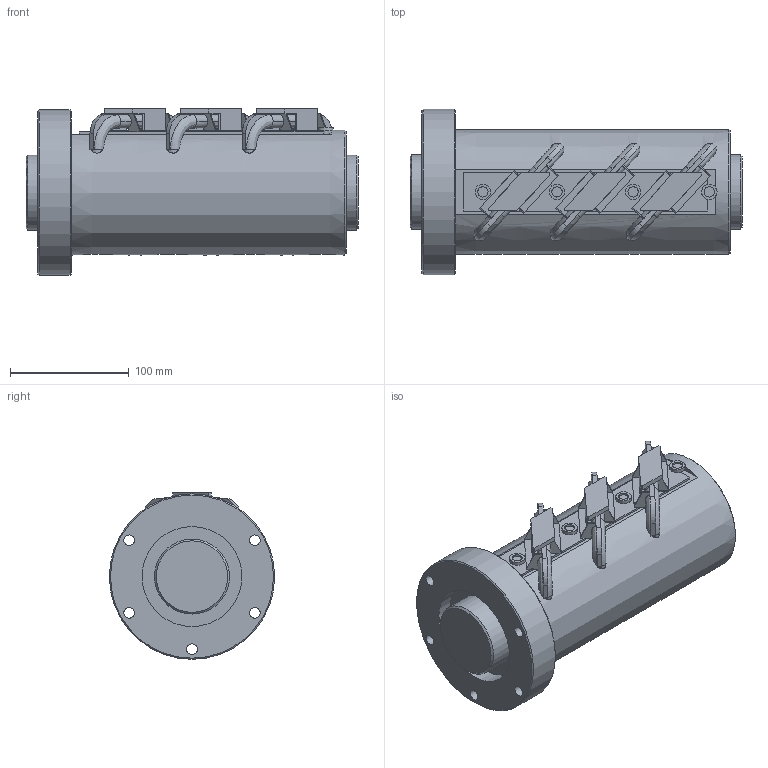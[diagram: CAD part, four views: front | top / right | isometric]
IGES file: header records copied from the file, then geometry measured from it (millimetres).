
Start section: Data from Parasolid IGES Translator 26.0.171, Copyright(c) 2006 Siemens PLM Software. All Rights Reserved.
Global section: file name: HBN6316-10.5RRG2+279LC0(0G200)_rev.igs; native system: By Siemens PLM Incorporated; preprocessor: XPlus GENERIC/IGES 26.0.171; author: Noname; organization: Noname; date: 20240704.081806; units: millimetre
Bounding box: 279 x 139 x 140 mm (x, y, z)
Surface area: 260900.6 mm2 (no closed solid volume)
Topology: 0 solids, 0 shells, 259 faces, 1507 edges, 1458 vertices
Faces by surface type: extrusion 192, revolution 67
